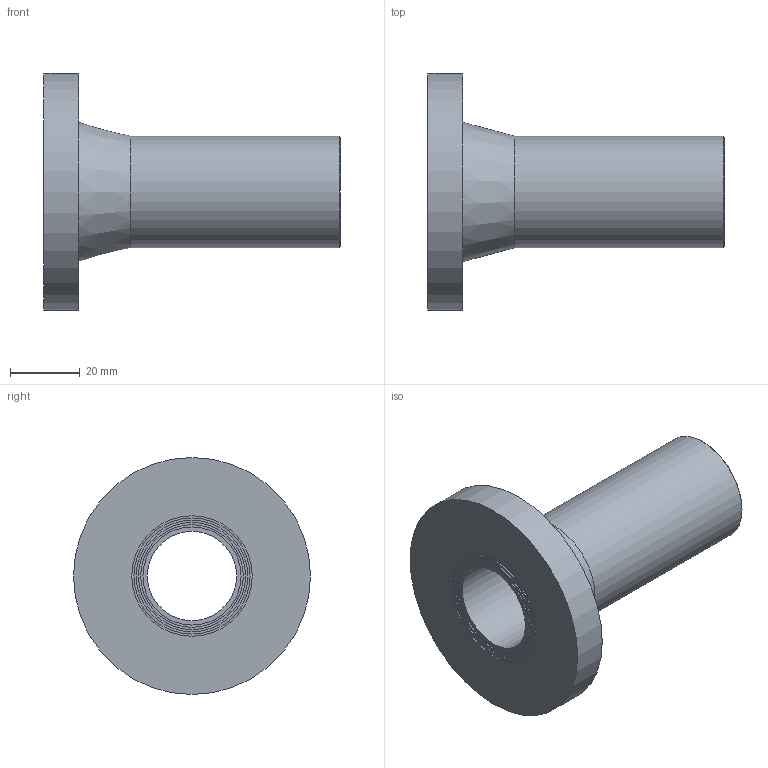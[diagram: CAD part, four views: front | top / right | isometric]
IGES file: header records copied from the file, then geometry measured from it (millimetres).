
Global section: file name: 490207032.ipt; native system: Autodesk Inventor 2015; preprocessor: unknown; author: Кирилл,,11,0; organization: 20170718.095537; date: 20190331.185812; units: millimetre
Bounding box: 85 x 68 x 68 mm (x, y, z)
Volume: 56085.9 mm3; surface area: 22711.7 mm2
Topology: 1 solids, 1 shells, 20 faces, 33 edges, 22 vertices
Faces by surface type: plane 9, cylinder 5, revolution 4, cone 2
Full cylindrical faces by diameter (mm): 28.16 x1, 30.72 x1, 32 x1, 33.28 x1, 68 x1
